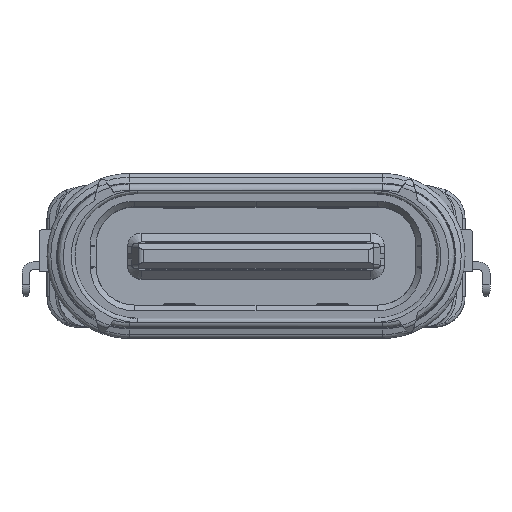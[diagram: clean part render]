
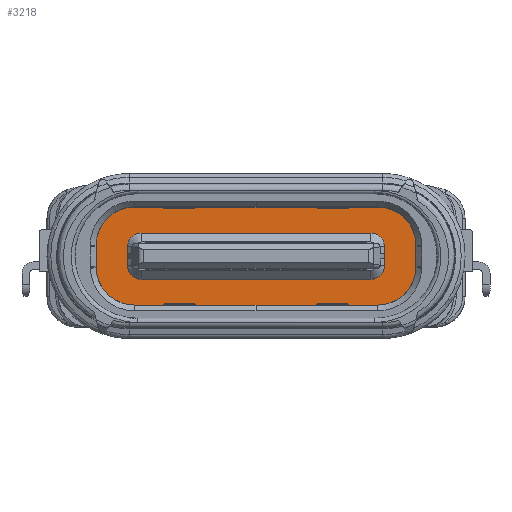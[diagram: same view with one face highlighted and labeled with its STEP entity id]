
A CAD part, top view. The second image highlights one B-rep face of the part: STEP entity #3218.
In plain terms, the highlighted planar face has unit normal (0, 0, 1).
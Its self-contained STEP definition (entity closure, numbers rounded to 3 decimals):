
#84 = DIRECTION ( 'NONE',  ( 0., 0., -1. ) ) ;
#236 = VECTOR ( 'NONE', #27571, 1000. ) ;
#268 = VERTEX_POINT ( 'NONE', #14190 ) ;
#345 = DIRECTION ( 'NONE',  ( 1., 0., 0. ) ) ;
#713 = CARTESIAN_POINT ( 'NONE',  ( -2.995, -0.9, -4.44 ) ) ;
#1405 = CARTESIAN_POINT ( 'NONE',  ( 2.995, 0.3, -4.44 ) ) ;
#1495 = EDGE_LOOP ( 'NONE', ( #35977, #21907, #33766, #2925, #12851, #2631, #3702, #4051 ) ) ;
#1550 = CARTESIAN_POINT ( 'NONE',  ( 3.47, 0.28, -4.44 ) ) ;
#2038 = VERTEX_POINT ( 'NONE', #12297 ) ;
#2448 = AXIS2_PLACEMENT_3D ( 'NONE', #1550, #18123, #15231 ) ;
#2631 = ORIENTED_EDGE ( 'NONE', *, *, #26385, .F. ) ;
#2781 = DIRECTION ( 'NONE',  ( 0., -1., 0. ) ) ;
#2840 = CARTESIAN_POINT ( 'NONE',  ( 3.345, -0.05, -4.44 ) ) ;
#2925 = ORIENTED_EDGE ( 'NONE', *, *, #25023, .F. ) ;
#3012 = CARTESIAN_POINT ( 'NONE',  ( 3.47, -1.58, -4.44 ) ) ;
#3111 = CARTESIAN_POINT ( 'NONE',  ( 3.345, -0.55, -4.44 ) ) ;
#3208 = LINE ( 'NONE', #11409, #31191 ) ;
#3218 = ADVANCED_FACE ( 'NONE', ( #4091, #7346 ), #29201, .F. ) ;
#3357 = AXIS2_PLACEMENT_3D ( 'NONE', #21487, #18752, #24575 ) ;
#3702 = ORIENTED_EDGE ( 'NONE', *, *, #21325, .T. ) ;
#3833 = DIRECTION ( 'NONE',  ( 0., 0., 1. ) ) ;
#4051 = ORIENTED_EDGE ( 'NONE', *, *, #15319, .F. ) ;
#4091 = FACE_BOUND ( 'NONE', #1495, .T. ) ;
#5011 = CARTESIAN_POINT ( 'NONE',  ( -2.995, -0.05, -4.44 ) ) ;
#5393 = DIRECTION ( 'NONE',  ( 0., -1., 0. ) ) ;
#5927 = LINE ( 'NONE', #3012, #31496 ) ;
#6244 = AXIS2_PLACEMENT_3D ( 'NONE', #22305, #13574, #33206 ) ;
#6923 = DIRECTION ( 'NONE',  ( -1., 0., 0. ) ) ;
#7079 = ORIENTED_EDGE ( 'NONE', *, *, #18484, .F. ) ;
#7346 = FACE_OUTER_BOUND ( 'NONE', #19201, .T. ) ;
#7957 = VECTOR ( 'NONE', #345, 1000. ) ;
#8485 = DIRECTION ( 'NONE',  ( 0., -1., 0. ) ) ;
#8559 = CIRCLE ( 'NONE', #6244, 0.7 ) ;
#8877 = CIRCLE ( 'NONE', #28039, 0.7 ) ;
#9047 = DIRECTION ( 'NONE',  ( -1., 0., 0. ) ) ;
#9074 = CARTESIAN_POINT ( 'NONE',  ( 3.345, -0.05, -4.44 ) ) ;
#9121 = CARTESIAN_POINT ( 'NONE',  ( -3.345, -0.05, -4.44 ) ) ;
#9539 = LINE ( 'NONE', #20631, #11689 ) ;
#9738 = CIRCLE ( 'NONE', #19012, 0.35 ) ;
#10728 = AXIS2_PLACEMENT_3D ( 'NONE', #31831, #3833, #6923 ) ;
#10837 = CARTESIAN_POINT ( 'NONE',  ( 4.17, 0.28, -4.44 ) ) ;
#11172 = DIRECTION ( 'NONE',  ( 0., 0., -1. ) ) ;
#11194 = DIRECTION ( 'NONE',  ( 0., -1., 0. ) ) ;
#11401 = VERTEX_POINT ( 'NONE', #25369 ) ;
#11409 = CARTESIAN_POINT ( 'NONE',  ( 2.995, 0.3, -4.44 ) ) ;
#11458 = LINE ( 'NONE', #713, #7957 ) ;
#11654 = ORIENTED_EDGE ( 'NONE', *, *, #29178, .F. ) ;
#11689 = VECTOR ( 'NONE', #14831, 1000. ) ;
#12291 = LINE ( 'NONE', #20638, #20281 ) ;
#12297 = CARTESIAN_POINT ( 'NONE',  ( 2.995, -0.9, -4.44 ) ) ;
#12851 = ORIENTED_EDGE ( 'NONE', *, *, #32857, .F. ) ;
#13574 = DIRECTION ( 'NONE',  ( 0., 0., -1. ) ) ;
#13725 = AXIS2_PLACEMENT_3D ( 'NONE', #25203, #84, #11194 ) ;
#13866 = VERTEX_POINT ( 'NONE', #29482 ) ;
#13991 = CARTESIAN_POINT ( 'NONE',  ( 3.47, -1.58, -4.44 ) ) ;
#14190 = CARTESIAN_POINT ( 'NONE',  ( -3.47, 0.98, -4.44 ) ) ;
#14437 = ORIENTED_EDGE ( 'NONE', *, *, #35794, .F. ) ;
#14488 = VERTEX_POINT ( 'NONE', #3111 ) ;
#14503 = DIRECTION ( 'NONE',  ( -1., 0., 0. ) ) ;
#14831 = DIRECTION ( 'NONE',  ( 1., 0., 0. ) ) ;
#15200 = DIRECTION ( 'NONE',  ( 0., 1., 0. ) ) ;
#15231 = DIRECTION ( 'NONE',  ( 0., 1., 0. ) ) ;
#15319 = EDGE_CURVE ( 'NONE', #2038, #14488, #23292, .T. ) ;
#15349 = CARTESIAN_POINT ( 'NONE',  ( 4.17, -0.88, -4.44 ) ) ;
#16035 = EDGE_CURVE ( 'NONE', #268, #25136, #9539, .T. ) ;
#16628 = CARTESIAN_POINT ( 'NONE',  ( -3.345, -0.05, -4.44 ) ) ;
#16894 = EDGE_CURVE ( 'NONE', #29559, #11401, #5927, .T. ) ;
#17492 = AXIS2_PLACEMENT_3D ( 'NONE', #25056, #24509, #5393 ) ;
#17804 = AXIS2_PLACEMENT_3D ( 'NONE', #31913, #18104, #32257 ) ;
#18104 = DIRECTION ( 'NONE',  ( 0., 0., -1. ) ) ;
#18123 = DIRECTION ( 'NONE',  ( 0., 0., -1. ) ) ;
#18277 = EDGE_CURVE ( 'NONE', #25136, #24259, #25133, .T. ) ;
#18484 = EDGE_CURVE ( 'NONE', #28380, #268, #8877, .T. ) ;
#18752 = DIRECTION ( 'NONE',  ( 0., 0., 1. ) ) ;
#18827 = VECTOR ( 'NONE', #8485, 1000. ) ;
#19012 = AXIS2_PLACEMENT_3D ( 'NONE', #5011, #32323, #26528 ) ;
#19051 = CARTESIAN_POINT ( 'NONE',  ( -4.17, -0.88, -4.44 ) ) ;
#19201 = EDGE_LOOP ( 'NONE', ( #21141, #7079, #14437, #11654, #35141, #29258, #34795, #35512 ) ) ;
#19957 = VERTEX_POINT ( 'NONE', #35677 ) ;
#20035 = CIRCLE ( 'NONE', #10728, 0.35 ) ;
#20048 = VERTEX_POINT ( 'NONE', #9121 ) ;
#20196 = VERTEX_POINT ( 'NONE', #29133 ) ;
#20281 = VECTOR ( 'NONE', #15200, 1000. ) ;
#20631 = CARTESIAN_POINT ( 'NONE',  ( -3.47, 0.98, -4.44 ) ) ;
#20638 = CARTESIAN_POINT ( 'NONE',  ( -4.17, -0.88, -4.44 ) ) ;
#20763 = EDGE_CURVE ( 'NONE', #24259, #27564, #26861, .T. ) ;
#21141 = ORIENTED_EDGE ( 'NONE', *, *, #16035, .F. ) ;
#21306 = VECTOR ( 'NONE', #2781, 1000. ) ;
#21325 = EDGE_CURVE ( 'NONE', #28073, #14488, #33394, .T. ) ;
#21487 = CARTESIAN_POINT ( 'NONE',  ( 2.995, -0.05, -4.44 ) ) ;
#21907 = ORIENTED_EDGE ( 'NONE', *, *, #27177, .F. ) ;
#22305 = CARTESIAN_POINT ( 'NONE',  ( 3.47, -0.88, -4.44 ) ) ;
#23292 = CIRCLE ( 'NONE', #17492, 0.35 ) ;
#24259 = VERTEX_POINT ( 'NONE', #26814 ) ;
#24509 = DIRECTION ( 'NONE',  ( 0., 0., 1. ) ) ;
#24575 = DIRECTION ( 'NONE',  ( 1., 0., 0. ) ) ;
#24676 = CARTESIAN_POINT ( 'NONE',  ( 3.47, 0.98, -4.44 ) ) ;
#25023 = EDGE_CURVE ( 'NONE', #13866, #20048, #9738, .T. ) ;
#25056 = CARTESIAN_POINT ( 'NONE',  ( 2.995, -0.55, -4.44 ) ) ;
#25133 = CIRCLE ( 'NONE', #2448, 0.7 ) ;
#25136 = VERTEX_POINT ( 'NONE', #24676 ) ;
#25203 = CARTESIAN_POINT ( 'NONE',  ( -3.47, -0.88, -4.44 ) ) ;
#25369 = CARTESIAN_POINT ( 'NONE',  ( -3.47, -1.58, -4.44 ) ) ;
#25919 = CIRCLE ( 'NONE', #13725, 0.7 ) ;
#26385 = EDGE_CURVE ( 'NONE', #28073, #30747, #34741, .T. ) ;
#26528 = DIRECTION ( 'NONE',  ( 0., 1., 0. ) ) ;
#26814 = CARTESIAN_POINT ( 'NONE',  ( 4.17, 0.28, -4.44 ) ) ;
#26861 = LINE ( 'NONE', #10837, #236 ) ;
#27165 = LINE ( 'NONE', #16628, #21306 ) ;
#27177 = EDGE_CURVE ( 'NONE', #19957, #20196, #20035, .T. ) ;
#27564 = VERTEX_POINT ( 'NONE', #15349 ) ;
#27571 = DIRECTION ( 'NONE',  ( 0., -1., 0. ) ) ;
#28039 = AXIS2_PLACEMENT_3D ( 'NONE', #33731, #11172, #33911 ) ;
#28073 = VERTEX_POINT ( 'NONE', #9074 ) ;
#28380 = VERTEX_POINT ( 'NONE', #29465 ) ;
#29133 = CARTESIAN_POINT ( 'NONE',  ( -2.995, -0.9, -4.44 ) ) ;
#29178 = EDGE_CURVE ( 'NONE', #11401, #32761, #25919, .T. ) ;
#29201 = PLANE ( 'NONE',  #17804 ) ;
#29258 = ORIENTED_EDGE ( 'NONE', *, *, #31005, .F. ) ;
#29465 = CARTESIAN_POINT ( 'NONE',  ( -4.17, 0.28, -4.44 ) ) ;
#29482 = CARTESIAN_POINT ( 'NONE',  ( -2.995, 0.3, -4.44 ) ) ;
#29559 = VERTEX_POINT ( 'NONE', #13991 ) ;
#30395 = EDGE_CURVE ( 'NONE', #20048, #19957, #27165, .T. ) ;
#30747 = VERTEX_POINT ( 'NONE', #1405 ) ;
#31005 = EDGE_CURVE ( 'NONE', #27564, #29559, #8559, .T. ) ;
#31191 = VECTOR ( 'NONE', #9047, 1000. ) ;
#31496 = VECTOR ( 'NONE', #14503, 1000. ) ;
#31831 = CARTESIAN_POINT ( 'NONE',  ( -2.995, -0.55, -4.44 ) ) ;
#31913 = CARTESIAN_POINT ( 'NONE',  ( 0., -0.3, -4.44 ) ) ;
#32257 = DIRECTION ( 'NONE',  ( 0., -1., 0. ) ) ;
#32323 = DIRECTION ( 'NONE',  ( 0., 0., 1. ) ) ;
#32421 = EDGE_CURVE ( 'NONE', #20196, #2038, #11458, .T. ) ;
#32761 = VERTEX_POINT ( 'NONE', #19051 ) ;
#32857 = EDGE_CURVE ( 'NONE', #30747, #13866, #3208, .T. ) ;
#33206 = DIRECTION ( 'NONE',  ( 1., 0., 0. ) ) ;
#33394 = LINE ( 'NONE', #2840, #18827 ) ;
#33731 = CARTESIAN_POINT ( 'NONE',  ( -3.47, 0.28, -4.44 ) ) ;
#33766 = ORIENTED_EDGE ( 'NONE', *, *, #30395, .F. ) ;
#33911 = DIRECTION ( 'NONE',  ( -1., 0., 0. ) ) ;
#34741 = CIRCLE ( 'NONE', #3357, 0.35 ) ;
#34795 = ORIENTED_EDGE ( 'NONE', *, *, #20763, .F. ) ;
#35141 = ORIENTED_EDGE ( 'NONE', *, *, #16894, .F. ) ;
#35512 = ORIENTED_EDGE ( 'NONE', *, *, #18277, .F. ) ;
#35677 = CARTESIAN_POINT ( 'NONE',  ( -3.345, -0.55, -4.44 ) ) ;
#35794 = EDGE_CURVE ( 'NONE', #32761, #28380, #12291, .T. ) ;
#35977 = ORIENTED_EDGE ( 'NONE', *, *, #32421, .F. ) ;
